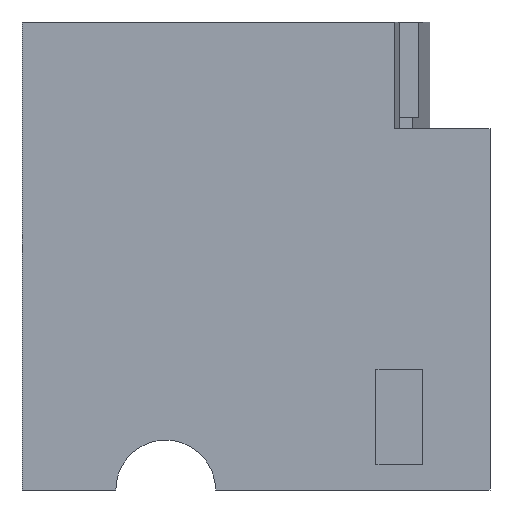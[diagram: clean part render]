
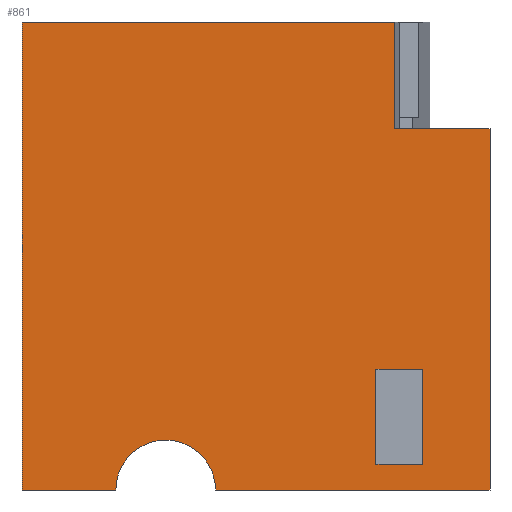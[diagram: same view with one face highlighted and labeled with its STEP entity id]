
A CAD part, left-side view. The second image highlights one B-rep face of the part: STEP entity #861.
In plain terms, the highlighted planar face has unit normal (-1, 0, 0).
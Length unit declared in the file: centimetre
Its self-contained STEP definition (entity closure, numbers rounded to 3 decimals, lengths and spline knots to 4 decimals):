
#4 = DIRECTION ( 'NONE',  ( 0., -1., 0. ) ) ;
#6 = ORIENTED_EDGE ( 'NONE', *, *, #1280, .F. ) ;
#35 = CARTESIAN_POINT ( 'NONE',  ( 0., 143.5331, 258.5299 ) ) ;
#52 = CIRCLE ( 'NONE', #1308, 106.5909 ) ;
#59 = EDGE_LOOP ( 'NONE', ( #910, #1515, #928, #763, #236, #962, #879, #499, #1122 ) ) ;
#69 = CARTESIAN_POINT ( 'NONE',  ( 0., 692.9511, 0. ) ) ;
#71 = EDGE_CURVE ( 'NONE', #251, #664, #549, .T. ) ;
#83 = LINE ( 'NONE', #547, #986 ) ;
#148 = VERTEX_POINT ( 'NONE', #448 ) ;
#155 = FACE_OUTER_BOUND ( 'NONE', #59, .T. ) ;
#158 = CARTESIAN_POINT ( 'NONE',  ( 0., 1000., 1000. ) ) ;
#160 = EDGE_CURVE ( 'NONE', #1286, #1037, #710, .T. ) ;
#166 = CARTESIAN_POINT ( 'NONE',  ( 0., 692.9511, 0. ) ) ;
#228 = DIRECTION ( 'NONE',  ( 0., -1., 0. ) ) ;
#236 = ORIENTED_EDGE ( 'NONE', *, *, #1084, .F. ) ;
#251 = VERTEX_POINT ( 'NONE', #957 ) ;
#264 = LINE ( 'NONE', #964, #1508 ) ;
#267 = DIRECTION ( 'NONE',  ( 0., 0., 1. ) ) ;
#270 = CARTESIAN_POINT ( 'NONE',  ( 0., 0., 771.6394 ) ) ;
#286 = DIRECTION ( 'NONE',  ( -1., 0., 0. ) ) ;
#321 = VECTOR ( 'NONE', #1344, 100. ) ;
#359 = CARTESIAN_POINT ( 'NONE',  ( 0., 143.5331, 54.8781 ) ) ;
#374 = DIRECTION ( 'NONE',  ( 0., 0., -1. ) ) ;
#389 = VERTEX_POINT ( 'NONE', #528 ) ;
#397 = VERTEX_POINT ( 'NONE', #654 ) ;
#403 = CARTESIAN_POINT ( 'NONE',  ( 0., 586.3602, 0. ) ) ;
#404 = LINE ( 'NONE', #666, #1475 ) ;
#409 = CARTESIAN_POINT ( 'NONE',  ( 0., 203.5793, 1000. ) ) ;
#448 = CARTESIAN_POINT ( 'NONE',  ( 0., 143.5331, 54.8781 ) ) ;
#488 = FACE_BOUND ( 'NONE', #856, .T. ) ;
#499 = ORIENTED_EDGE ( 'NONE', *, *, #160, .F. ) ;
#500 = DIRECTION ( 'NONE',  ( 0., -1., 0. ) ) ;
#502 = DIRECTION ( 'NONE',  ( 0., 1., 0. ) ) ;
#511 = LINE ( 'NONE', #985, #1226 ) ;
#516 = VERTEX_POINT ( 'NONE', #1236 ) ;
#522 = DIRECTION ( 'NONE',  ( 0., 0., -1. ) ) ;
#527 = VERTEX_POINT ( 'NONE', #561 ) ;
#528 = CARTESIAN_POINT ( 'NONE',  ( 0., 243.6831, 258.5299 ) ) ;
#547 = CARTESIAN_POINT ( 'NONE',  ( 0., 0., 1000. ) ) ;
#549 = LINE ( 'NONE', #1271, #989 ) ;
#561 = CARTESIAN_POINT ( 'NONE',  ( 0., 0., 0. ) ) ;
#618 = DIRECTION ( 'NONE',  ( 1., 0., 0. ) ) ;
#634 = EDGE_CURVE ( 'NONE', #148, #1028, #723, .T. ) ;
#648 = DIRECTION ( 'NONE',  ( 0., 0., -1. ) ) ;
#654 = CARTESIAN_POINT ( 'NONE',  ( 0., 692.9511, 106.5909 ) ) ;
#664 = VERTEX_POINT ( 'NONE', #1398 ) ;
#666 = CARTESIAN_POINT ( 'NONE',  ( 0., 243.6831, 54.8781 ) ) ;
#710 = LINE ( 'NONE', #1057, #1512 ) ;
#718 = VECTOR ( 'NONE', #1239, 100. ) ;
#723 = LINE ( 'NONE', #359, #1306 ) ;
#746 = PLANE ( 'NONE',  #1503 ) ;
#758 = VECTOR ( 'NONE', #502, 100. ) ;
#763 = ORIENTED_EDGE ( 'NONE', *, *, #1164, .T. ) ;
#765 = CARTESIAN_POINT ( 'NONE',  ( 0., 203.5793, 771.6394 ) ) ;
#773 = LINE ( 'NONE', #1124, #718 ) ;
#802 = VERTEX_POINT ( 'NONE', #1219 ) ;
#810 = CIRCLE ( 'NONE', #1222, 106.5909 ) ;
#856 = EDGE_LOOP ( 'NONE', ( #969, #6, #1446, #1337 ) ) ;
#861 = ADVANCED_FACE ( 'NONE', ( #488, #155 ), #746, .F. ) ;
#863 = EDGE_CURVE ( 'NONE', #1440, #397, #810, .T. ) ;
#879 = ORIENTED_EDGE ( 'NONE', *, *, #1442, .T. ) ;
#886 = EDGE_CURVE ( 'NONE', #1028, #389, #1439, .T. ) ;
#910 = ORIENTED_EDGE ( 'NONE', *, *, #71, .T. ) ;
#928 = ORIENTED_EDGE ( 'NONE', *, *, #863, .F. ) ;
#949 = LINE ( 'NONE', #1420, #1431 ) ;
#957 = CARTESIAN_POINT ( 'NONE',  ( 0., 1000., 0. ) ) ;
#962 = ORIENTED_EDGE ( 'NONE', *, *, #988, .F. ) ;
#964 = CARTESIAN_POINT ( 'NONE',  ( 0., 143.5331, 54.8781 ) ) ;
#969 = ORIENTED_EDGE ( 'NONE', *, *, #634, .F. ) ;
#985 = CARTESIAN_POINT ( 'NONE',  ( 0., 1000., 1000. ) ) ;
#986 = VECTOR ( 'NONE', #648, 100. ) ;
#988 = EDGE_CURVE ( 'NONE', #516, #1345, #773, .T. ) ;
#989 = VECTOR ( 'NONE', #1050, 100. ) ;
#998 = DIRECTION ( 'NONE',  ( -1., 0., 0. ) ) ;
#999 = EDGE_CURVE ( 'NONE', #389, #802, #404, .T. ) ;
#1014 = CARTESIAN_POINT ( 'NONE',  ( 0., 143.5331, 258.5299 ) ) ;
#1028 = VERTEX_POINT ( 'NONE', #1014 ) ;
#1037 = VERTEX_POINT ( 'NONE', #409 ) ;
#1050 = DIRECTION ( 'NONE',  ( 0., -1., 0. ) ) ;
#1053 = EDGE_CURVE ( 'NONE', #397, #664, #52, .T. ) ;
#1057 = CARTESIAN_POINT ( 'NONE',  ( 0., 1000., 1000. ) ) ;
#1084 = EDGE_CURVE ( 'NONE', #1345, #527, #83, .T. ) ;
#1122 = ORIENTED_EDGE ( 'NONE', *, *, #1265, .T. ) ;
#1124 = CARTESIAN_POINT ( 'NONE',  ( 0., 203.5793, 771.6394 ) ) ;
#1164 = EDGE_CURVE ( 'NONE', #1440, #527, #949, .T. ) ;
#1172 = DIRECTION ( 'NONE',  ( 0., 0., 1. ) ) ;
#1214 = CARTESIAN_POINT ( 'NONE',  ( 0., 1000., 1000. ) ) ;
#1219 = CARTESIAN_POINT ( 'NONE',  ( 0., 243.6831, 54.8781 ) ) ;
#1222 = AXIS2_PLACEMENT_3D ( 'NONE', #166, #286, #267 ) ;
#1224 = LINE ( 'NONE', #765, #321 ) ;
#1226 = VECTOR ( 'NONE', #1319, 100. ) ;
#1236 = CARTESIAN_POINT ( 'NONE',  ( 0., 203.5793, 771.6394 ) ) ;
#1239 = DIRECTION ( 'NONE',  ( 0., -1., 0. ) ) ;
#1265 = EDGE_CURVE ( 'NONE', #1286, #251, #511, .T. ) ;
#1271 = CARTESIAN_POINT ( 'NONE',  ( 0., 1000., 0. ) ) ;
#1280 = EDGE_CURVE ( 'NONE', #802, #148, #264, .T. ) ;
#1286 = VERTEX_POINT ( 'NONE', #158 ) ;
#1306 = VECTOR ( 'NONE', #1172, 100. ) ;
#1308 = AXIS2_PLACEMENT_3D ( 'NONE', #69, #998, #1368 ) ;
#1319 = DIRECTION ( 'NONE',  ( 0., 0., -1. ) ) ;
#1337 = ORIENTED_EDGE ( 'NONE', *, *, #886, .F. ) ;
#1344 = DIRECTION ( 'NONE',  ( 0., 0., 1. ) ) ;
#1345 = VERTEX_POINT ( 'NONE', #270 ) ;
#1368 = DIRECTION ( 'NONE',  ( 0., 0., 1. ) ) ;
#1398 = CARTESIAN_POINT ( 'NONE',  ( 0., 799.542, 0. ) ) ;
#1420 = CARTESIAN_POINT ( 'NONE',  ( 0., 1000., 0. ) ) ;
#1431 = VECTOR ( 'NONE', #228, 100. ) ;
#1439 = LINE ( 'NONE', #35, #758 ) ;
#1440 = VERTEX_POINT ( 'NONE', #403 ) ;
#1442 = EDGE_CURVE ( 'NONE', #516, #1037, #1224, .T. ) ;
#1446 = ORIENTED_EDGE ( 'NONE', *, *, #999, .F. ) ;
#1475 = VECTOR ( 'NONE', #522, 100. ) ;
#1503 = AXIS2_PLACEMENT_3D ( 'NONE', #1214, #618, #374 ) ;
#1508 = VECTOR ( 'NONE', #500, 100. ) ;
#1512 = VECTOR ( 'NONE', #4, 100. ) ;
#1515 = ORIENTED_EDGE ( 'NONE', *, *, #1053, .F. ) ;
